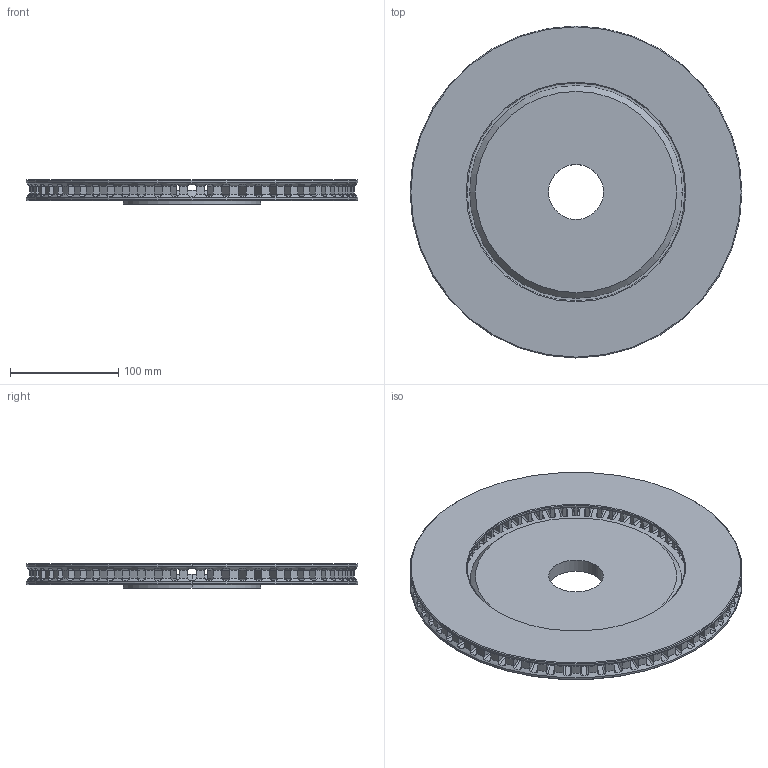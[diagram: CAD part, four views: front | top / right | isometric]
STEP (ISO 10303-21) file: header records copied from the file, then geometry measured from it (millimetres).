
FILE_DESCRIPTION (( 'STEP AP214' ), '1' );
FILE_NAME ('0.75-2-12.STEP', '2018-04-11T17:12:45', ( '' ), ( '' ), 'SwSTEP 2.0', 'SolidWorks 2017', '' );
FILE_SCHEMA (( 'AUTOMOTIVE_DESIGN' ));
Length unit declared in the file: inch
Products named in the file (1): 0.75-2-12
Bounding box: 307.34 x 307.34 x 22.23 mm (x, y, z)
Volume: 829197.7 mm3; surface area: 267657 mm2
Topology: 1 solids, 1 shells, 573 faces, 2048 edges, 1362 vertices
Faces by surface type: cylinder 372, plane 187, cone 14
Entity records: 27480 total; most frequent: CARTESIAN_POINT 10976, ORIENTED_EDGE 4096, DIRECTION 2818, EDGE_CURVE 2048, VERTEX_POINT 1362, AXIS2_PLACEMENT_3D 1036, B_SPLINE_CURVE_WITH_KNOTS 840, VECTOR 746
